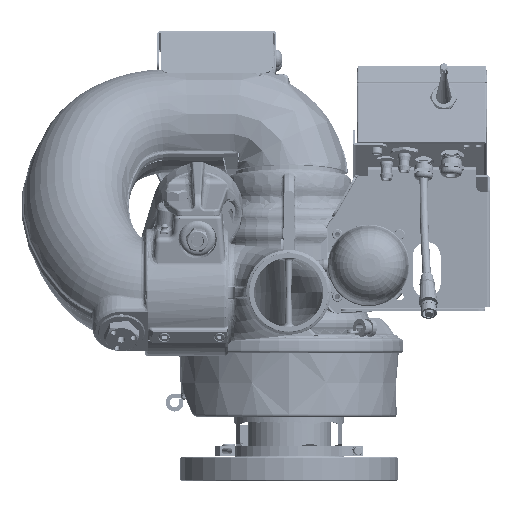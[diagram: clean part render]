
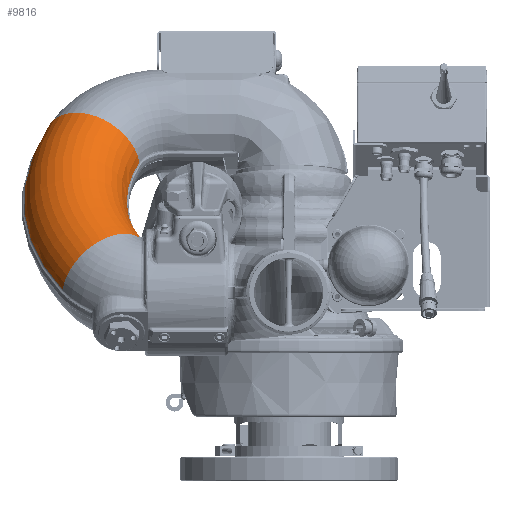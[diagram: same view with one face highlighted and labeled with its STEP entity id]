
A CAD part, top view. The second image highlights one B-rep face of the part: STEP entity #9816.
In plain terms, the highlighted toroidal (fillet/blend) face has major radius 177.8 mm and minor radius 47.625 mm.
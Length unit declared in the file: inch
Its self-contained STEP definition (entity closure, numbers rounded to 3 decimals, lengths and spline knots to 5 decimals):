
#1413 = DIRECTION ( 'NONE',  ( 0., -0.669, 0.743 ) ) ;
#4841 = CARTESIAN_POINT ( 'NONE',  ( -5.3295, 3.6723, 5.30681 ) ) ;
#5546 = CARTESIAN_POINT ( 'NONE',  ( -5.31998, 3.62431, 5.2331 ) ) ;
#6666 = VERTEX_POINT ( 'NONE', #195131 ) ;
#8096 = DIRECTION ( 'NONE',  ( 0., -0.743, -0.669 ) ) ;
#9816 = ADVANCED_FACE ( 'NONE', ( #139231 ), #89450, .T. ) ;
#16932 = ORIENTED_EDGE ( 'NONE', *, *, #116087, .T. ) ;
#18116 = CARTESIAN_POINT ( 'NONE',  ( -5.40846, 6.53053, 1.87393 ) ) ;
#19482 = CARTESIAN_POINT ( 'NONE',  ( -5.41976, 3.84328, 6.1345 ) ) ;
#20893 = CARTESIAN_POINT ( 'NONE',  ( -5.39124, 3.83484, 5.73747 ) ) ;
#22375 = B_SPLINE_CURVE_WITH_KNOTS ( 'NONE', 3,
 ( #59771, #26281, #193744, #75928 ),
 .UNSPECIFIED., .F., .F.,
 ( 4, 4 ),
 ( 0., 0.004 ),
 .UNSPECIFIED. ) ;
#23035 = CARTESIAN_POINT ( 'NONE',  ( -5.34611, 3.73289, 5.42323 ) ) ;
#24160 = VERTEX_POINT ( 'NONE', #46843 ) ;
#26281 = CARTESIAN_POINT ( 'NONE',  ( -5.41745, 3.8233, 6.26025 ) ) ;
#28024 = EDGE_LOOP ( 'NONE', ( #178321, #205854, #102049, #105349, #16932, #152147 ) ) ;
#30927 = CARTESIAN_POINT ( 'NONE',  ( -7.10024, 6.84021, 1.12718 ) ) ;
#35872 = VERTEX_POINT ( 'NONE', #210188 ) ;
#39063 = CARTESIAN_POINT ( 'NONE',  ( -5.31335, 3.56913, 5.16289 ) ) ;
#39264 = VERTEX_POINT ( 'NONE', #18116 ) ;
#46843 = CARTESIAN_POINT ( 'NONE',  ( -5.31335, 3.56913, 5.16289 ) ) ;
#47612 = DIRECTION ( 'NONE',  ( 0., 0.743, 0.669 ) ) ;
#55065 = CARTESIAN_POINT ( 'NONE',  ( -5.36419, 3.78367, 5.54475 ) ) ;
#59771 = CARTESIAN_POINT ( 'NONE',  ( -5.41642, 3.81349, 6.31177 ) ) ;
#72674 = CARTESIAN_POINT ( 'NONE',  ( -5.41975, 3.84606, 6.11226 ) ) ;
#73391 = CARTESIAN_POINT ( 'NONE',  ( -5.38843, 3.83068, 5.71581 ) ) ;
#74534 = CARTESIAN_POINT ( 'NONE',  ( -0.718, 5.1166, 3.44426 ) ) ;
#74640 = CARTESIAN_POINT ( 'NONE',  ( -5.41642, 3.81349, 6.31177 ) ) ;
#75928 = CARTESIAN_POINT ( 'NONE',  ( -5.41936, 3.83995, 6.15668 ) ) ;
#84610 = AXIS2_PLACEMENT_3D ( 'NONE', #30927, #180844, #47612 ) ;
#84910 = DIRECTION ( 'NONE',  ( 0., -0.669, 0.743 ) ) ;
#88718 = CARTESIAN_POINT ( 'NONE',  ( -5.41904, 3.8505, 6.06765 ) ) ;
#89450 = TOROIDAL_SURFACE ( 'NONE', #95573, 7., 1.875 ) ;
#90142 = CARTESIAN_POINT ( 'NONE',  ( -5.37046, 3.79792, 5.58687 ) ) ;
#95573 = AXIS2_PLACEMENT_3D ( 'NONE', #135339, #101035, #84910 ) ;
#97111 = EDGE_CURVE ( 'NONE', #24160, #39264, #158171, .T. ) ;
#101035 = DIRECTION ( 'NONE',  ( 0., -0.743, -0.669 ) ) ;
#101479 = CARTESIAN_POINT ( 'NONE',  ( -0.718, 5.11304, 3.44106 ) ) ;
#102049 = ORIENTED_EDGE ( 'NONE', *, *, #97111, .T. ) ;
#102705 = DIRECTION ( 'NONE',  ( -0.539, 0.564, -0.626 ) ) ;
#104899 = CARTESIAN_POINT ( 'NONE',  ( -5.35202, 3.75118, 5.46301 ) ) ;
#105349 = ORIENTED_EDGE ( 'NONE', *, *, #211095, .F. ) ;
#106676 = EDGE_CURVE ( 'NONE', #181536, #35872, #22375, .T. ) ;
#108617 = AXIS2_PLACEMENT_3D ( 'NONE', #101479, #184169, #1413 ) ;
#116087 = EDGE_CURVE ( 'NONE', #6666, #191642, #196385, .T. ) ;
#117912 = B_SPLINE_CURVE_WITH_KNOTS ( 'NONE', 3,
 ( #200830, #19482, #72674, #88718, #190445, #123104, #122383, #173647, #204412, #20893, #73391, #189009, #155412, #90142, #55065, #104899, #23035, #4841, #5546, #39063 ),
 .UNSPECIFIED., .F., .F.,
 ( 4, 2, 2, 2, 2, 2, 2, 2, 2, 4 ),
 ( 0., 0.00171, 0.00342, 0.00683, 0.01025, 0.01195, 0.01366, 0.01708, 0.02049, 0.02732 ),
 .UNSPECIFIED. ) ;
#119496 = DIRECTION ( 'NONE',  ( 0., 0.743, 0.669 ) ) ;
#122383 = CARTESIAN_POINT ( 'NONE',  ( -5.41213, 3.85522, 5.93425 ) ) ;
#123104 = CARTESIAN_POINT ( 'NONE',  ( -5.41532, 3.85537, 5.97848 ) ) ;
#124448 = CIRCLE ( 'NONE', #170180, 1.875 ) ;
#131260 = CIRCLE ( 'NONE', #84610, 1.875 ) ;
#133055 = CARTESIAN_POINT ( 'NONE',  ( -8.18027, 1.92169, 6.98541 ) ) ;
#135339 = CARTESIAN_POINT ( 'NONE',  ( -0.718, 4.91629, 3.26391 ) ) ;
#139231 = FACE_OUTER_BOUND ( 'NONE', #28024, .T. ) ;
#141586 = AXIS2_PLACEMENT_3D ( 'NONE', #74534, #8096, #162351 ) ;
#151058 = CARTESIAN_POINT ( 'NONE',  ( -6.61621, 2.39384, 6.06538 ) ) ;
#152147 = ORIENTED_EDGE ( 'NONE', *, *, #197030, .T. ) ;
#155412 = CARTESIAN_POINT ( 'NONE',  ( -5.37961, 3.81578, 5.65102 ) ) ;
#158171 = CIRCLE ( 'NONE', #141586, 5.14447 ) ;
#162351 = DIRECTION ( 'NONE',  ( 0., -0.669, 0.743 ) ) ;
#170180 = AXIS2_PLACEMENT_3D ( 'NONE', #151058, #102705, #119496 ) ;
#173647 = CARTESIAN_POINT ( 'NONE',  ( -5.40411, 3.8503, 5.84634 ) ) ;
#178321 = ORIENTED_EDGE ( 'NONE', *, *, #106676, .T. ) ;
#180844 = DIRECTION ( 'NONE',  ( 0.411, 0.61, -0.678 ) ) ;
#181536 = VERTEX_POINT ( 'NONE', #74640 ) ;
#184169 = DIRECTION ( 'NONE',  ( 0., 0.743, 0.669 ) ) ;
#189009 = CARTESIAN_POINT ( 'NONE',  ( -5.38262, 3.82115, 5.6726 ) ) ;
#190445 = CARTESIAN_POINT ( 'NONE',  ( -5.41833, 3.85215, 6.04527 ) ) ;
#191642 = VERTEX_POINT ( 'NONE', #133055 ) ;
#193744 = CARTESIAN_POINT ( 'NONE',  ( -5.41843, 3.83215, 6.20855 ) ) ;
#195131 = CARTESIAN_POINT ( 'NONE',  ( -8.79264, 7.54713, 0.73773 ) ) ;
#196385 = CIRCLE ( 'NONE', #108617, 8.85622 ) ;
#197030 = EDGE_CURVE ( 'NONE', #191642, #181536, #124448, .T. ) ;
#200830 = CARTESIAN_POINT ( 'NONE',  ( -5.41936, 3.83995, 6.15668 ) ) ;
#202549 = EDGE_CURVE ( 'NONE', #35872, #24160, #117912, .T. ) ;
#204412 = CARTESIAN_POINT ( 'NONE',  ( -5.39928, 3.84554, 5.80264 ) ) ;
#205854 = ORIENTED_EDGE ( 'NONE', *, *, #202549, .T. ) ;
#210188 = CARTESIAN_POINT ( 'NONE',  ( -5.41936, 3.83995, 6.15668 ) ) ;
#211095 = EDGE_CURVE ( 'NONE', #6666, #39264, #131260, .T. ) ;
